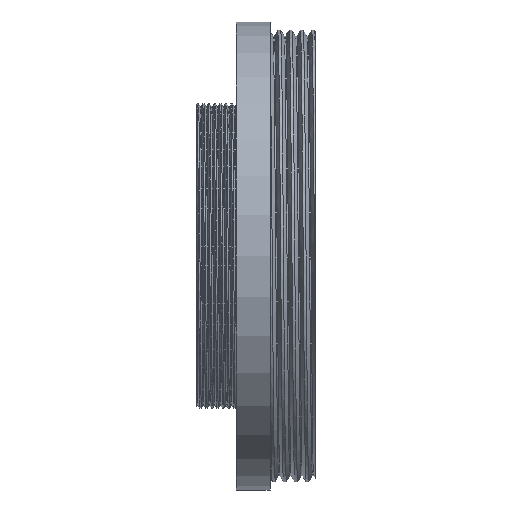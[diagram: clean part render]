
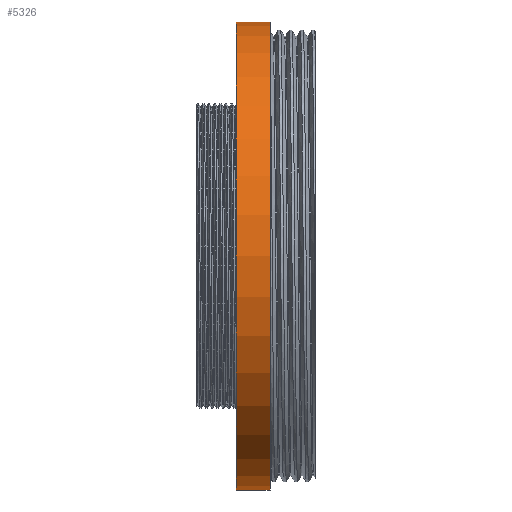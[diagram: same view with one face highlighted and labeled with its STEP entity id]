
A CAD part, left-side view. The second image highlights one B-rep face of the part: STEP entity #5326.
In plain terms, the highlighted cylindrical face has radius 20.75 mm (diameter 41.5 mm), a partial arc.
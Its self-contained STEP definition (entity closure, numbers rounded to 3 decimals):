
#1063 = DIRECTION ( 'NONE',  ( 0., 1., 0. ) ) ;
#1143 = CYLINDRICAL_SURFACE ( 'NONE', #2386, 20.75 ) ;
#1292 = ORIENTED_EDGE ( 'NONE', *, *, #1357, .F. ) ;
#1357 = EDGE_CURVE ( 'NONE', #7584, #5128, #5262, .T. ) ;
#1597 = AXIS2_PLACEMENT_3D ( 'NONE', #4587, #7063, #5860 ) ;
#1732 = FACE_OUTER_BOUND ( 'NONE', #7845, .T. ) ;
#1997 = AXIS2_PLACEMENT_3D ( 'NONE', #4192, #1063, #3574 ) ;
#2383 = ORIENTED_EDGE ( 'NONE', *, *, #3914, .T. ) ;
#2386 = AXIS2_PLACEMENT_3D ( 'NONE', #5432, #6677, #4234 ) ;
#2682 = CARTESIAN_POINT ( 'NONE',  ( 0., 7., 20.75 ) ) ;
#3034 = CIRCLE ( 'NONE', #1597, 20.75 ) ;
#3574 = DIRECTION ( 'NONE',  ( 0., 0., 1. ) ) ;
#3899 = EDGE_CURVE ( 'NONE', #6804, #5443, #5199, .T. ) ;
#3914 = EDGE_CURVE ( 'NONE', #5443, #5128, #3034, .T. ) ;
#3947 = CARTESIAN_POINT ( 'NONE',  ( 0., 4., 20.75 ) ) ;
#4064 = DIRECTION ( 'NONE',  ( 0., -1., 0. ) ) ;
#4079 = VECTOR ( 'NONE', #7021, 1000. ) ;
#4192 = CARTESIAN_POINT ( 'NONE',  ( 0., 7., 0. ) ) ;
#4234 = DIRECTION ( 'NONE',  ( 0., 0., -1. ) ) ;
#4342 = ORIENTED_EDGE ( 'NONE', *, *, #4524, .F. ) ;
#4524 = EDGE_CURVE ( 'NONE', #6804, #7584, #7259, .T. ) ;
#4587 = CARTESIAN_POINT ( 'NONE',  ( 0., 4., 0. ) ) ;
#5073 = CARTESIAN_POINT ( 'NONE',  ( 0., 7., -20.75 ) ) ;
#5128 = VERTEX_POINT ( 'NONE', #3947 ) ;
#5199 = LINE ( 'NONE', #7105, #4079 ) ;
#5262 = LINE ( 'NONE', #6510, #6701 ) ;
#5326 = ADVANCED_FACE ( 'NONE', ( #1732 ), #1143, .T. ) ;
#5432 = CARTESIAN_POINT ( 'NONE',  ( 0., 7., 0. ) ) ;
#5443 = VERTEX_POINT ( 'NONE', #6718 ) ;
#5860 = DIRECTION ( 'NONE',  ( 0., 0., 1. ) ) ;
#6133 = ORIENTED_EDGE ( 'NONE', *, *, #3899, .T. ) ;
#6510 = CARTESIAN_POINT ( 'NONE',  ( 0., 7., 20.75 ) ) ;
#6677 = DIRECTION ( 'NONE',  ( 0., -1., 0. ) ) ;
#6701 = VECTOR ( 'NONE', #4064, 1000. ) ;
#6718 = CARTESIAN_POINT ( 'NONE',  ( 0., 4., -20.75 ) ) ;
#6804 = VERTEX_POINT ( 'NONE', #5073 ) ;
#7021 = DIRECTION ( 'NONE',  ( 0., -1., 0. ) ) ;
#7063 = DIRECTION ( 'NONE',  ( 0., 1., 0. ) ) ;
#7105 = CARTESIAN_POINT ( 'NONE',  ( 0., 7., -20.75 ) ) ;
#7259 = CIRCLE ( 'NONE', #1997, 20.75 ) ;
#7584 = VERTEX_POINT ( 'NONE', #2682 ) ;
#7845 = EDGE_LOOP ( 'NONE', ( #1292, #4342, #6133, #2383 ) ) ;
